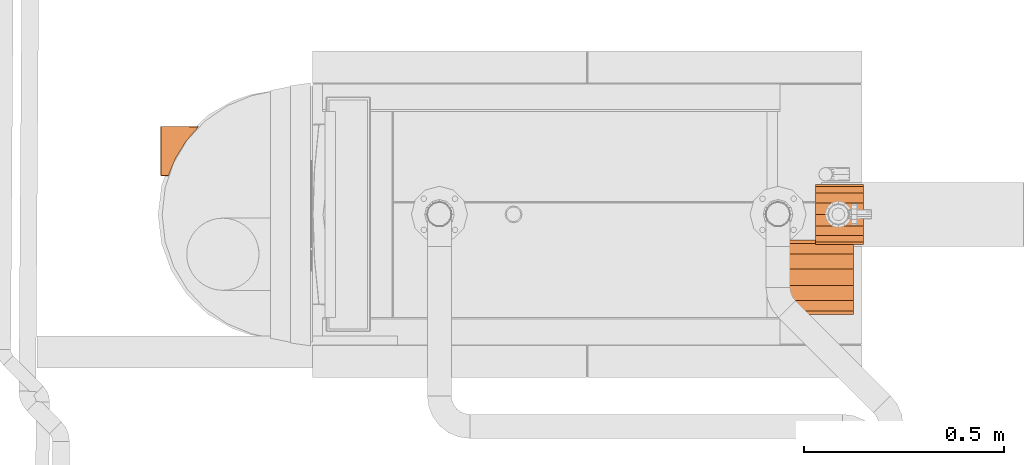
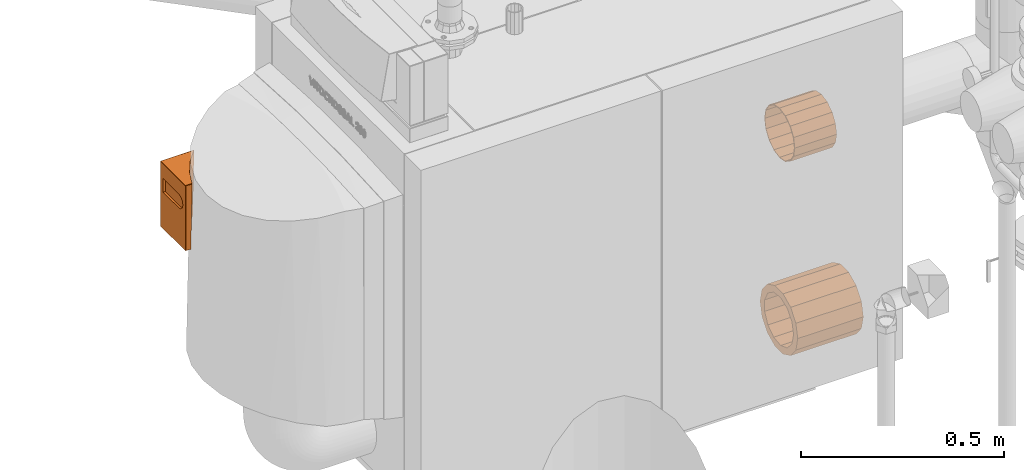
# One storey, part 372 of 374: 3 proxies.
"""IFC2X3 building model written with IfcOpenShell, lengths in metres."""

from ifc_helpers import new_model, si_unit, direction, origin, place, context, subcontext, project, spatial, open_shell, surface_model, source, transform, mapped, element, save


model = new_model("IFC2X3")

# Units and contexts
model_context = context("Model", 3, precision=1e-05, world=origin(), true_north=direction((-0.4480736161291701, 0.8939966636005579)))
body_context = subcontext(model_context, "Body", "Model", "MODEL_VIEW")
ifc_project = project(units=[si_unit("LENGTHUNIT", "METRE"), si_unit("AREAUNIT", "SQUARE_METRE"), si_unit("VOLUMEUNIT", "CUBIC_METRE"), si_unit("PLANEANGLEUNIT", "RADIAN"), si_unit("THERMODYNAMICTEMPERATUREUNIT", "KELVIN"), si_unit("MASSUNIT", "GRAM", prefix="KILO"), si_unit("TIMEUNIT", "SECOND")], contexts=[model_context])

# Site, building, storey
site_placement = place(None, origin())
site = spatial("IfcSite", under=ifc_project, at=site_placement, Name="Site 1", CompositionType="ELEMENT")
building_placement = place(site_placement, origin())
building = spatial("IfcBuilding", under=site, at=building_placement, Name="Undefined", CompositionType="ELEMENT")
storey_placement = place(building_placement, origin())
storey = spatial("IfcBuildingStorey", under=building, at=storey_placement, Name="Rez de chauss\x8ee", CompositionType="ELEMENT", Elevation=0.0)

# Proxies
shared_shape_1 = source(origin(), body_context, "Body", "SurfaceModel", [
    surface_model("IfcFaceBasedSurfaceModel", [(0.0418558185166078, 1.776356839e-15, 0.0), (0.005487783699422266, 0.01968961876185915, 0.0), (0.0, 0.0, 0.0), (-0.03582168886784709, 0.021649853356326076, 0.0), (-0.03467825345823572, 0.0010460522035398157, 0.0), (-0.07389075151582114, 0.005492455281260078, 0.0), (-0.06587044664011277, -0.01414350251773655, 0.0), (-0.10117935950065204, -0.02558240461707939, 0.0), (-0.08643082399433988, -0.04208892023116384, 0.0), (-0.11228266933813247, -0.06541996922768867, 0.0), (-0.09164925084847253, -0.07638824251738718, 0.0), (-0.10500153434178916, -0.10612992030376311, 0.0), (-0.08033024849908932, -0.10918390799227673, 0.0), (-0.08077807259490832, -0.13964915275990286, 0.0), (-0.0550668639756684, -0.13296282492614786, 0.0), (-0.04441003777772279, -0.159338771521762, 0.0), (-0.02164663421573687, -0.14227753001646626, 0.0), (-0.003100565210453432, -0.16129900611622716, 0.0), (0.01227426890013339, -0.1349941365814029, 0.0), (0.03496849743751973, -0.1451416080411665, 0.0), (0.038924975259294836, -0.11278118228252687, 0.0), (0.06225710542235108, -0.11406674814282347, 0.0), (0.05220012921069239, -0.08072738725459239, 0.0), (0.0733604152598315, -0.0742291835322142, 0.0), (0.04905855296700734, -0.04617588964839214, 0.0), (0.06607928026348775, -0.0335192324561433, 0.0), (0.03021994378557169, -0.017042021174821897, 0.0), (0.03021994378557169, -0.017042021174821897, -0.1867972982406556), (0.0, 0.0, -0.1867972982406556), (-0.03467825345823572, 0.0010460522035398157, -0.1867972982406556), (-0.06587044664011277, -0.01414350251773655, -0.1867972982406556), (-0.08643082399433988, -0.04208892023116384, -0.1867972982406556), (-0.09164925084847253, -0.07638824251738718, -0.1867972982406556), (-0.08033024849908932, -0.10918390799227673, -0.1867972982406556), (-0.0550668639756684, -0.13296282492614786, -0.1867972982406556), (-0.02164663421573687, -0.14227753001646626, -0.1867972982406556), (0.01227426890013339, -0.1349941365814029, -0.1867972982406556), (0.038924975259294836, -0.11278118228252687, -0.1867972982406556), (0.05220012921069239, -0.08072738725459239, -0.1867972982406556), (0.04905855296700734, -0.04617588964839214, -0.1867972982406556), (-0.03582168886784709, 0.021649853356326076, -0.1867972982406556), (0.005487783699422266, 0.01968961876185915, -0.1867972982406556), (0.0418558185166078, 1.776356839e-15, -0.1867972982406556), (0.06607928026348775, -0.0335192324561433, -0.1867972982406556), (0.0733604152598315, -0.0742291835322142, -0.1867972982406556), (0.06225710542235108, -0.11406674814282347, -0.1867972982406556), (0.03496849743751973, -0.1451416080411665, -0.1867972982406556), (-0.003100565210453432, -0.16129900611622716, -0.1867972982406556), (-0.04441003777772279, -0.159338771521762, -0.1867972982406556), (-0.08077807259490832, -0.13964915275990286, -0.1867972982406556), (-0.10500153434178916, -0.10612992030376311, -0.1867972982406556), (-0.11228266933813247, -0.06541996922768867, -0.1867972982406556), (-0.10117935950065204, -0.02558240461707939, -0.1867972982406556), (-0.07389075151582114, 0.005492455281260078, -0.1867972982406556)], [open_shell([[[0, 1, 2]], [[2, 1, 3]], [[2, 3, 4]], [[4, 3, 5]], [[4, 5, 6]], [[6, 5, 7]], [[6, 7, 8]], [[8, 7, 9]], [[8, 9, 10]], [[10, 9, 11]], [[10, 11, 12]], [[12, 11, 13]], [[12, 13, 14]], [[14, 13, 15]], [[14, 15, 16]], [[16, 15, 17]], [[16, 17, 18]], [[18, 17, 19]], [[18, 19, 20]], [[20, 19, 21]], [[20, 21, 22]], [[22, 21, 23]], [[22, 23, 24]], [[24, 23, 25]], [[24, 25, 26]], [[26, 25, 0]], [[26, 0, 2]], [[27, 2, 28]], [[28, 2, 4]], [[28, 4, 29]], [[29, 4, 6]], [[29, 6, 30]], [[30, 6, 8]], [[30, 8, 31]], [[31, 8, 10]], [[31, 10, 32]], [[32, 10, 12]], [[32, 12, 33]], [[33, 12, 14]], [[33, 14, 34]], [[34, 14, 16]], [[34, 16, 35]], [[35, 16, 18]], [[35, 18, 36]], [[36, 18, 20]], [[36, 20, 37]], [[37, 20, 22]], [[37, 22, 38]], [[38, 22, 24]], [[38, 24, 39]], [[39, 24, 26]], [[39, 26, 27]], [[27, 26, 2]], [[40, 1, 41]], [[41, 1, 0]], [[41, 0, 42]], [[42, 0, 25]], [[42, 25, 43]], [[43, 25, 23]], [[43, 23, 44]], [[44, 23, 21]], [[44, 21, 45]], [[45, 21, 19]], [[45, 19, 46]], [[46, 19, 17]], [[46, 17, 47]], [[47, 17, 15]], [[47, 15, 48]], [[48, 15, 13]], [[48, 13, 49]], [[49, 13, 11]], [[49, 11, 50]], [[50, 11, 9]], [[50, 9, 51]], [[51, 9, 7]], [[51, 7, 52]], [[52, 7, 5]], [[52, 5, 53]], [[53, 5, 3]], [[53, 3, 40]], [[40, 3, 1]], [[40, 41, 28]], [[28, 41, 42]], [[28, 42, 27]], [[27, 42, 43]], [[27, 43, 39]], [[39, 43, 44]], [[39, 44, 38]], [[38, 44, 45]], [[38, 45, 37]], [[37, 45, 46]], [[37, 46, 36]], [[36, 46, 47]], [[36, 47, 35]], [[35, 47, 48]], [[35, 48, 34]], [[34, 48, 49]], [[34, 49, 33]], [[33, 49, 50]], [[33, 50, 32]], [[32, 50, 51]], [[32, 51, 31]], [[31, 51, 52]], [[31, 52, 30]], [[30, 52, 53]], [[30, 53, 29]], [[29, 53, 40]], [[29, 40, 28]]])]),
])
proxy_1_placement = place(storey_placement, origin())
element("IfcBuildingElementProxy", 1, at=proxy_1_placement, inside=storey, Name="BuildingElementProxy 20", context=body_context, shape_type="MappedRepresentation", body=[
    mapped(shared_shape_1, transform((54.763099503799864, 12.826726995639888, 0.22600000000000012), x_axis=(0.0, -0.2684815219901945, -0.9632848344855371), y_axis=(0.0, -0.9632848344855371, 0.2684815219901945), z_axis=(-1.0, 0.0, 0.0))),
])
shared_shape_2 = source(origin(), body_context, "Body", "SurfaceModel", [
    surface_model("IfcFaceBasedSurfaceModel", [(0.028939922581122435, 0.0, 0.0), (0.0005222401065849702, 0.0019306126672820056, 0.0), (0.0, 0.0, 0.0), (-0.024993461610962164, 0.014589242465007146, 0.0), (-0.026214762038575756, 0.013005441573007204, 0.0), (-0.04372264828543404, 0.03604872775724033, 0.0), (-0.045457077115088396, 0.035052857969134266, 0.0), (-0.0528139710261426, 0.06304205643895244, 0.0), (-0.05479747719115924, 0.06278572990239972, 0.0), (-0.0508833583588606, 0.0914597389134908, 0.0), (-0.05281397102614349, 0.09198197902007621, 0.0), (-0.039808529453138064, 0.11819674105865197, 0.0), (-0.03822472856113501, 0.11697544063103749, 0.0), (-0.017761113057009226, 0.13743905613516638, 0.0), (-0.016765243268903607, 0.13570462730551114, 0.0), (0.009971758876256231, 0.14677945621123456, 0.0), (0.010228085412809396, 0.1447959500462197, 0.0), (0.039168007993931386, 0.14479595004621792, 0.0), (0.03864576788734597, 0.14286533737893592, 0.0), (0.06538277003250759, 0.13179050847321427, 0.0), (0.064161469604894, 0.13020670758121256, 0.0), (0.08289065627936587, 0.10874722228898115, 0.0), (0.08462508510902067, 0.10974309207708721, 0.0), (0.09198197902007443, 0.08175389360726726, 0.0), (0.09396548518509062, 0.08201022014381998, 0.0), (0.09005136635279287, 0.05333621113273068, 0.0), (0.09198197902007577, 0.05281397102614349, 0.0), (0.07897653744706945, 0.026599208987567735, 0.0), (0.07739273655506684, 0.027820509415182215, 0.0), (0.0569291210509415, 0.007356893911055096, 0.0), (0.05593325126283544, 0.00909132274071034, 0.0), (0.029196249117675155, -0.0019835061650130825, 0.0), (0.0005222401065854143, 0.001930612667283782, -0.11936495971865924), (-0.024993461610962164, 0.014589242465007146, -0.11936495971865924), (-0.04372264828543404, 0.03604872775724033, -0.11936495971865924), (-0.0528139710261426, 0.06304205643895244, -0.11936495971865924), (-0.0508833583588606, 0.0914597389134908, -0.11936495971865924), (-0.03822472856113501, 0.11697544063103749, -0.11936495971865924), (-0.016765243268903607, 0.13570462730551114, -0.11936495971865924), (0.010228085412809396, 0.1447959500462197, -0.11936495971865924), (0.038645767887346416, 0.1428653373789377, -0.11936495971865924), (0.064161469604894, 0.13020670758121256, -0.11936495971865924), (0.08289065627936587, 0.10874722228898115, -0.11936495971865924), (0.09198197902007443, 0.08175389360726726, -0.11936495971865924), (0.09005136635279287, 0.05333621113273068, -0.11936495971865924), (0.07739273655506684, 0.027820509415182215, -0.11936495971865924), (0.05593325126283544, 0.00909132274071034, -0.11936495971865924), (0.028939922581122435, 0.0, -0.11936495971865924), (0.0, 1.776356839e-15, -0.11936495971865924), (0.029196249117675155, -0.0019835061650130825, -0.11936495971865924), (0.0569291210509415, 0.007356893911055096, -0.11936495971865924), (0.07897653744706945, 0.026599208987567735, -0.11936495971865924), (0.09198197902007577, 0.05281397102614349, -0.11936495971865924), (0.09396548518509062, 0.08201022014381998, -0.11936495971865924), (0.08462508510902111, 0.10974309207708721, -0.11936495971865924), (0.06538277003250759, 0.13179050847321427, -0.11936495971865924), (0.03916800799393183, 0.1447959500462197, -0.11936495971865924), (0.009971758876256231, 0.14677945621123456, -0.11936495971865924), (-0.017761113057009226, 0.13743905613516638, -0.11936495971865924), (-0.039808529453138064, 0.11819674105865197, -0.11936495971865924), (-0.05281397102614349, 0.09198197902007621, -0.11936495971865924), (-0.05479747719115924, 0.06278572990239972, -0.11936495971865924), (-0.045457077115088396, 0.035052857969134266, -0.11936495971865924), (-0.026214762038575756, 0.013005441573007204, -0.11936495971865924)], [open_shell([[[0, 1, 2]], [[2, 1, 3]], [[2, 3, 4]], [[4, 3, 5]], [[4, 5, 6]], [[6, 5, 7]], [[6, 7, 8]], [[8, 7, 9]], [[8, 9, 10]], [[10, 9, 11]], [[9, 12, 11]], [[11, 12, 13]], [[12, 14, 13]], [[13, 14, 15]], [[14, 16, 15]], [[15, 16, 17]], [[16, 18, 17]], [[17, 18, 19]], [[18, 20, 19]], [[19, 20, 21]], [[19, 21, 22]], [[22, 21, 23]], [[22, 23, 24]], [[24, 23, 25]], [[24, 25, 26]], [[26, 25, 27]], [[25, 28, 27]], [[27, 28, 29]], [[28, 30, 29]], [[29, 30, 31]], [[30, 0, 31]], [[31, 0, 2]], [[0, 32, 1]], [[1, 32, 33]], [[1, 33, 3]], [[3, 33, 34]], [[3, 34, 5]], [[5, 34, 35]], [[5, 35, 7]], [[7, 35, 36]], [[7, 36, 9]], [[9, 36, 37]], [[9, 37, 12]], [[12, 37, 38]], [[12, 38, 14]], [[14, 38, 39]], [[14, 39, 16]], [[16, 39, 40]], [[16, 40, 18]], [[18, 40, 41]], [[18, 41, 20]], [[20, 41, 42]], [[20, 42, 21]], [[21, 42, 43]], [[21, 43, 23]], [[23, 43, 44]], [[23, 44, 25]], [[25, 44, 45]], [[25, 45, 28]], [[28, 45, 46]], [[28, 46, 30]], [[30, 46, 47]], [[30, 47, 0]], [[0, 47, 32]], [[4, 48, 2]], [[2, 48, 49]], [[2, 49, 31]], [[31, 49, 50]], [[31, 50, 29]], [[29, 50, 51]], [[29, 51, 27]], [[27, 51, 52]], [[27, 52, 26]], [[26, 52, 53]], [[26, 53, 24]], [[24, 53, 54]], [[24, 54, 22]], [[22, 54, 55]], [[22, 55, 19]], [[19, 55, 56]], [[19, 56, 17]], [[17, 56, 57]], [[17, 57, 15]], [[15, 57, 58]], [[15, 58, 13]], [[13, 58, 59]], [[13, 59, 11]], [[11, 59, 60]], [[11, 60, 10]], [[10, 60, 61]], [[10, 61, 8]], [[8, 61, 62]], [[8, 62, 6]], [[6, 62, 63]], [[6, 63, 4]], [[4, 63, 48]], [[36, 60, 37]], [[37, 60, 59]], [[37, 59, 38]], [[38, 59, 58]], [[38, 58, 39]], [[39, 58, 57]], [[39, 57, 40]], [[40, 57, 56]], [[40, 56, 55]], [[36, 35, 60]], [[60, 35, 61]], [[35, 34, 61]], [[61, 34, 62]], [[34, 33, 62]], [[62, 33, 63]], [[33, 32, 63]], [[63, 32, 48]], [[48, 32, 49]], [[49, 32, 47]], [[49, 47, 50]], [[50, 47, 46]], [[50, 46, 51]], [[51, 46, 45]], [[51, 45, 52]], [[52, 45, 44]], [[52, 44, 53]], [[53, 44, 43]], [[53, 43, 42]], [[53, 42, 54]], [[54, 42, 41]], [[54, 41, 55]], [[55, 41, 40]]])]),
])
proxy_2_placement = place(storey_placement, origin())
element("IfcBuildingElementProxy", 2, at=proxy_2_placement, inside=storey, Name="BuildingElementProxy 29", context=body_context, shape_type="MappedRepresentation", body=[
    mapped(shared_shape_2, transform((54.97509950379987, 12.981212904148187, 0.66), x_axis=(0.0, 0.26112005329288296, -0.9653063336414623), y_axis=(0.0, 0.9653063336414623, 0.26112005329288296), z_axis=(1.0, 0.0, 0.0))),
])
shared_shape_3 = source(origin(), body_context, "Body", "SurfaceModel", [
    surface_model("IfcFaceBasedSurfaceModel", [(0.0, 0.0, 0.0), (0.0010352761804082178, 0.0, 0.0), (0.00036278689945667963, 0.0005391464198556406, 0.0), (0.0010523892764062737, 0.0004753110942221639, -5.322261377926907e-05), (0.000446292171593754, 0.0011939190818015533, -0.00029703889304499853), (0.0011258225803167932, 0.0010511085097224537, -0.0003144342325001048), (0.0005847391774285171, 0.0016930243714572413, -0.0008026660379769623), (0.001247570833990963, 0.0014900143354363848, -0.000759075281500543), (0.0007594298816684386, 0.0019690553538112, -0.0014485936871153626), (0.001401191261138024, 0.001732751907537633, -0.0013270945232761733), (0.0014835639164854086, 0.0017691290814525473, -0.0016337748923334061), (0.0019363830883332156, 0.0012926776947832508, -0.001278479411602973), (0.0021906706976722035, 0.0010330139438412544, -0.0014607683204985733), (0.002300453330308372, 0.0007019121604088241, -0.0013086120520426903), (0.002449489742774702, 3.1710346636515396e-05, -0.0014138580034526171), (0.0005176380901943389, 0.002042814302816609, -0.0018865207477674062), (0.0002588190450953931, 0.0017532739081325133, -0.0009268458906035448), (6.935035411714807e-05, 0.001005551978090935, -0.00023633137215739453), (0.001677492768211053, 0.0003593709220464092, -0.000332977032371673), (0.0019318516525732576, 1.1606792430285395e-05, -0.0005175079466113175), (0.0021627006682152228, 0.00020530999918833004, -0.0008055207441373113), (0.002191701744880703, 0.00043271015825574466, -0.0009086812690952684), (0.002239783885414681, 0.0006060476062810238, -0.0010842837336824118), (0.001822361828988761, 0.0011125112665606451, -0.0008568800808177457), (0.0017319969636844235, 0.0007867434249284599, -0.0005268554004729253), (0.0005176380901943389, -0.12209881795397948, -0.004670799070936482), (0.0014835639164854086, -0.12183673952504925, -0.004406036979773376), (0.0006689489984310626, -0.12195289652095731, -0.003890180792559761), (0.0013216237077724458, -0.1217333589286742, -0.0037991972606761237), (0.0005096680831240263, -0.1215852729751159, -0.0032873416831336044), (0.0011815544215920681, -0.12141007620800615, -0.0032690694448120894), (0.00039676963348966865, -0.12101723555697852, -0.0028531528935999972), (0.0010822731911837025, -0.12091055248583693, -0.002887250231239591), (0.00034550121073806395, -0.12032550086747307, -0.002646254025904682), (0.0010371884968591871, -0.12030225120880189, -0.0027053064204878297), (0.0010352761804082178, -0.1201426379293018, -0.002694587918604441), (0.001666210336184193, -0.1202545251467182, -0.0029960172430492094), (0.0019318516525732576, -0.12013103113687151, -0.0032120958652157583), (0.0021566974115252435, -0.12018807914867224, -0.003483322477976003), (0.002449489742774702, -0.12011092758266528, -0.004108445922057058), (-1.776356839e-15, -0.1201426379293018, -0.0026945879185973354), (6.935035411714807e-05, -0.1211365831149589, -0.002975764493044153), (0.0002588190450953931, -0.12185259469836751, -0.0036991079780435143), (0.00187732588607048, -0.12131673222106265, -0.0038079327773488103), (0.0021906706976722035, -0.12110912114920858, -0.004200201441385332), (0.002269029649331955, -0.1207532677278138, -0.003915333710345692), (0.002213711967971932, -0.12062559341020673, -0.0037059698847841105), (0.002174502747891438, -0.12042831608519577, -0.0035551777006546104), (0.0016996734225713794, -0.12070602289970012, -0.0031310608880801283), (0.0017733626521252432, -0.12107678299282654, -0.0034144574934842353), (-0.18608279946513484, 0.0028728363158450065, -0.05084437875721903), (-0.1858239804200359, 0.0031623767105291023, -0.051804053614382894), (-0.18625311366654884, 0.0030926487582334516, -0.05154585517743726), (-0.1867899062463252, 0.0029002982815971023, -0.052068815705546), (-0.18687227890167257, 0.002863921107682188, -0.05176213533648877), (-0.18736500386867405, 0.0024300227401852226, -0.051988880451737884), (-0.18702589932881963, 0.00262118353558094, -0.05119411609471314), (-0.18747902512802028, 0.002249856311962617, -0.05156728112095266), (-0.1871476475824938, 0.0021822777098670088, -0.0507494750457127), (-0.18756938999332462, 0.0019240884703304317, -0.05123725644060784), (-0.18722108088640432, 0.001606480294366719, -0.050488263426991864), (-0.18762389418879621, 0.001496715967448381, -0.051043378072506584), (-0.18723819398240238, 0.001131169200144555, -0.050435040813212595), (-0.18775583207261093, 0.0011512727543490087, -0.05133139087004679), (-0.18749701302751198, 0.0021726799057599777, -0.052274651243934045), (-0.18767185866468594, 0.0018432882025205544, -0.05219874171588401), (-0.18773252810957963, 0.001747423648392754, -0.05197441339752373), (-0.1877806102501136, 0.001574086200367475, -0.05179881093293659), (-0.1878096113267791, 0.0013466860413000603, -0.05169565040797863), (-0.18775583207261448, 0.0011744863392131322, -0.05236640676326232), (-0.18664975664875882, 0.0016627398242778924, -0.0500972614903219), (-0.186341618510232, 0.0011195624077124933, -0.04991753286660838), (-0.18627226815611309, 0.0021251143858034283, -0.05015386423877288), (-0.18656625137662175, 0.002317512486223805, -0.0503943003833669), (-0.186427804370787, 0.002816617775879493, -0.05089992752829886), (-0.18627226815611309, -0.1200170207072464, -0.05289329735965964), (-0.186341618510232, -0.1190230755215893, -0.052612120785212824), (-0.18666704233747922, -0.11920190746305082, -0.05274351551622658), (-0.18723819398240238, -0.11901146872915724, -0.053129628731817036), (-0.1872362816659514, -0.11917108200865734, -0.053140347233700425), (-0.18763517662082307, -0.11911718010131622, -0.05370641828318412), (-0.1871911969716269, -0.11977938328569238, -0.053322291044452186), (-0.18760171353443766, -0.11956867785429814, -0.05384146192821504), (-0.18709191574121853, -0.12027890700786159, -0.053704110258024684), (-0.18752802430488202, -0.11993943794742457, -0.05412485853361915), (-0.18695184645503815, -0.12060218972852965, -0.05423423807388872), (-0.18742406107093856, -0.12017938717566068, -0.05451833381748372), (-0.1867899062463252, -0.1207055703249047, -0.05484107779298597), (-0.18749701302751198, -0.11996945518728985, -0.0550140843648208), (-0.18775583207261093, -0.11899136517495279, -0.05402597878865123), (-0.18781561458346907, -0.11904670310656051, -0.054373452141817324), (-0.18779780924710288, -0.11928694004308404, -0.05444530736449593), (-0.18775860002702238, -0.119484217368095, -0.05459609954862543), (-0.18770328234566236, -0.11961189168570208, -0.05480546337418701), (-0.18775583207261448, -0.11896815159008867, -0.05506099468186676), (-0.18634359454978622, -0.12082930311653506, -0.05398744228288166), (-0.1858239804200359, -0.12097925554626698, -0.05458833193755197), (-0.18608279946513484, -0.12073303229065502, -0.053616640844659), (-0.18650287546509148, -0.12046167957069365, -0.0533846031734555), (-0.1866157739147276, -0.11989364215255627, -0.052950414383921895), (-0.16392921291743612, -0.11697428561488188, -0.14396079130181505), (-0.16364364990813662, -0.11763137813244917, -0.14459294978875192), (-0.1631260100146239, -0.11825177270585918, -0.14512074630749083), (-0.16239033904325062, -0.1187350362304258, -0.14543660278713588), (-0.1619399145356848, -0.11888757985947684, -0.14547247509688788), (-0.16148515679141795, -0.11894252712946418, -0.14539922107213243), (-0.18144037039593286, 0.003529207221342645, -0.06815979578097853), (-0.18217900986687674, 0.0033757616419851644, -0.06843038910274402), (-0.18276405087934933, 0.0029401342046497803, -0.06876061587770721), (-0.18311555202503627, 0.0022994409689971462, -0.06910008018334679), (-0.18319071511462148, 0.001556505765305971, -0.06939937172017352), (0.023939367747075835, -0.12013883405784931, -0.09205990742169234), (0.024367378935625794, -0.12008924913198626, -0.0918788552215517), (0.024736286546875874, -0.11994208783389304, -0.09160740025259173), (0.02521324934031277, -0.1194690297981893, -0.09094533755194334), (0.02540228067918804, -0.11885391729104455, -0.09021503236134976), (0.025339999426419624, -0.11819539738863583, -0.08951551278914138), (0.006078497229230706, 0.00033539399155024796, -0.014954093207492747), (0.005874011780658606, 0.0010790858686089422, -0.014735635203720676), (0.0054107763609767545, 0.0017259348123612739, -0.014630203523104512), (0.0047490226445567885, 0.002170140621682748, -0.014658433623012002), (0.003984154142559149, 0.0023329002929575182, -0.014820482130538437), (-0.17192233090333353, -0.08157508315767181, -0.11332862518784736), (-0.17839355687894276, -0.04175266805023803, -0.08827846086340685), (-0.14532656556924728, -0.1073281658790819, -0.0413571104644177), (-0.10537746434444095, -0.10756818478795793, -0.030655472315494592), (-0.10537746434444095, -0.030703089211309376, -0.02893152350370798), (-0.10805354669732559, -0.020350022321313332, -0.029416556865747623), (-0.11536473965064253, -0.012738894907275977, -0.031205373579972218), (-0.14532656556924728, -0.030463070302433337, -0.03963316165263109), (-0.14265048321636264, -0.020142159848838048, -0.03868444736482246), (-0.1353392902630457, -0.012618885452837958, -0.03655619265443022), (-0.12535201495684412, -0.009909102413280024, -0.0338186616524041), (0.01734688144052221, -0.08279619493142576, -0.0588833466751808), (0.010875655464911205, -0.042973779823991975, -0.03383318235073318), (-0.14370488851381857, -0.10719246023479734, -0.047407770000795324), (-0.14370488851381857, -0.03032736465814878, -0.04568382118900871), (-0.10375578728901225, -0.03056738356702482, -0.0349821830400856), (-0.10643186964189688, -0.020214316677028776, -0.035467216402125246), (-0.11374306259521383, -0.012603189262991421, -0.03725603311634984), (-0.12373033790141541, -0.009773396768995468, -0.039869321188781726), (-0.133717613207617, -0.012483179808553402, -0.04260685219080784), (-0.14102880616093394, -0.020006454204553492, -0.044735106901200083), (-0.10375578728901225, -0.10743247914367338, -0.036706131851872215)], [open_shell([[[0, 1, 2]], [[2, 1, 3]], [[2, 3, 4]], [[4, 3, 5]], [[4, 5, 6]], [[6, 5, 7]], [[6, 7, 8]], [[8, 7, 9]], [[8, 9, 10]], [[10, 9, 11]], [[10, 11, 12]], [[12, 11, 13]], [[12, 13, 14]], [[10, 15, 8]], [[8, 15, 16]], [[8, 16, 6]], [[6, 16, 4]], [[16, 17, 4]], [[4, 17, 2]], [[17, 0, 2]], [[3, 1, 18]], [[18, 1, 19]], [[18, 19, 20]], [[20, 19, 14]], [[20, 14, 21]], [[21, 14, 22]], [[11, 9, 23]], [[23, 9, 7]], [[23, 7, 24]], [[24, 7, 5]], [[24, 5, 18]], [[18, 5, 3]], [[13, 11, 22]], [[22, 11, 23]], [[22, 23, 21]], [[21, 23, 24]], [[21, 24, 20]], [[20, 24, 18]], [[22, 14, 13]], [[25, 26, 27]], [[27, 26, 28]], [[27, 28, 29]], [[29, 28, 30]], [[29, 30, 31]], [[31, 30, 32]], [[31, 32, 33]], [[33, 32, 34]], [[33, 34, 35]], [[35, 34, 36]], [[35, 36, 37]], [[37, 36, 38]], [[37, 38, 39]], [[35, 40, 33]], [[33, 40, 41]], [[33, 41, 31]], [[31, 41, 29]], [[41, 42, 29]], [[29, 42, 27]], [[42, 25, 27]], [[28, 26, 43]], [[43, 26, 44]], [[43, 44, 45]], [[45, 44, 39]], [[45, 39, 46]], [[46, 39, 47]], [[36, 34, 48]], [[48, 34, 32]], [[48, 32, 49]], [[49, 32, 30]], [[49, 30, 43]], [[43, 30, 28]], [[38, 36, 47]], [[47, 36, 48]], [[47, 48, 46]], [[46, 48, 49]], [[46, 49, 45]], [[45, 49, 43]], [[47, 39, 38]], [[50, 51, 52]], [[52, 51, 53]], [[52, 53, 54]], [[54, 53, 55]], [[54, 55, 56]], [[56, 55, 57]], [[56, 57, 58]], [[58, 57, 59]], [[58, 59, 60]], [[60, 59, 61]], [[60, 61, 62]], [[62, 61, 63]], [[53, 64, 55]], [[55, 64, 65]], [[55, 65, 57]], [[57, 65, 66]], [[57, 66, 59]], [[59, 66, 67]], [[59, 67, 61]], [[61, 67, 68]], [[61, 68, 63]], [[63, 68, 69]], [[60, 62, 70]], [[70, 62, 71]], [[70, 71, 72]], [[70, 72, 73]], [[73, 72, 50]], [[73, 50, 74]], [[74, 50, 52]], [[74, 52, 54]], [[66, 65, 69]], [[69, 65, 64]], [[60, 70, 58]], [[58, 70, 73]], [[58, 73, 56]], [[56, 73, 74]], [[56, 74, 54]], [[67, 69, 68]], [[66, 69, 67]], [[75, 76, 77]], [[77, 76, 78]], [[77, 78, 79]], [[79, 78, 80]], [[79, 80, 81]], [[81, 80, 82]], [[81, 82, 83]], [[83, 82, 84]], [[83, 84, 85]], [[85, 84, 86]], [[85, 86, 87]], [[87, 86, 88]], [[78, 89, 80]], [[80, 89, 90]], [[80, 90, 82]], [[82, 90, 91]], [[82, 91, 84]], [[84, 91, 92]], [[84, 92, 86]], [[86, 92, 93]], [[86, 93, 88]], [[88, 93, 94]], [[85, 87, 95]], [[95, 87, 96]], [[95, 96, 97]], [[95, 97, 98]], [[98, 97, 75]], [[98, 75, 99]], [[99, 75, 77]], [[99, 77, 79]], [[91, 90, 94]], [[94, 90, 89]], [[85, 95, 83]], [[83, 95, 98]], [[83, 98, 81]], [[81, 98, 99]], [[81, 99, 79]], [[92, 94, 93]], [[91, 94, 92]], [[100, 101, 94]], [[94, 101, 88]], [[101, 102, 88]], [[88, 102, 87]], [[102, 103, 87]], [[87, 103, 104]], [[87, 104, 96]], [[96, 104, 105]], [[94, 89, 69]], [[69, 89, 63]], [[89, 78, 63]], [[63, 78, 62]], [[78, 76, 62]], [[62, 76, 71]], [[25, 42, 96]], [[96, 42, 97]], [[42, 41, 97]], [[97, 41, 75]], [[41, 40, 75]], [[75, 40, 76]], [[51, 50, 15]], [[15, 50, 16]], [[50, 72, 16]], [[16, 72, 17]], [[72, 71, 17]], [[17, 71, 0]], [[106, 107, 51]], [[51, 107, 53]], [[107, 108, 53]], [[53, 108, 64]], [[108, 109, 64]], [[64, 109, 69]], [[109, 110, 69]], [[14, 19, 39]], [[39, 19, 37]], [[19, 1, 37]], [[37, 1, 35]], [[1, 0, 35]], [[35, 0, 40]], [[111, 112, 25]], [[25, 112, 26]], [[112, 113, 26]], [[26, 113, 114]], [[26, 114, 44]], [[44, 114, 115]], [[44, 115, 39]], [[39, 115, 116]], [[117, 118, 14]], [[14, 118, 12]], [[118, 119, 12]], [[12, 119, 10]], [[119, 120, 10]], [[10, 120, 15]], [[120, 121, 15]], [[100, 94, 122]], [[122, 94, 123]], [[94, 69, 123]], [[123, 69, 110]], [[106, 51, 121]], [[121, 51, 15]], [[124, 76, 125]], [[125, 76, 40]], [[125, 40, 126]], [[126, 40, 0]], [[126, 0, 127]], [[127, 0, 128]], [[124, 129, 76]], [[76, 129, 71]], [[129, 130, 71]], [[71, 130, 131]], [[71, 131, 132]], [[71, 132, 0]], [[0, 132, 128]], [[105, 104, 111]], [[111, 104, 112]], [[104, 103, 112]], [[112, 103, 114]], [[112, 114, 113]], [[103, 102, 114]], [[114, 102, 115]], [[102, 101, 115]], [[115, 101, 116]], [[101, 100, 116]], [[116, 100, 122]], [[116, 122, 133]], [[133, 122, 134]], [[122, 123, 134]], [[134, 123, 110]], [[134, 110, 117]], [[117, 110, 118]], [[110, 109, 118]], [[118, 109, 119]], [[108, 107, 109]], [[109, 107, 119]], [[106, 121, 107]], [[107, 121, 119]], [[121, 120, 119]], [[105, 111, 96]], [[96, 111, 25]], [[124, 135, 129]], [[129, 135, 136]], [[126, 127, 137]], [[137, 127, 138]], [[127, 128, 138]], [[138, 128, 139]], [[128, 132, 139]], [[139, 132, 140]], [[132, 131, 140]], [[140, 131, 141]], [[131, 130, 141]], [[141, 130, 142]], [[130, 129, 142]], [[142, 129, 136]], [[138, 139, 137]], [[137, 139, 140]], [[137, 140, 141]], [[141, 142, 137]], [[137, 142, 136]], [[137, 136, 135]], [[135, 143, 137]], [[126, 137, 125]], [[125, 137, 143]], [[125, 143, 124]], [[124, 143, 135]], [[116, 133, 39]], [[39, 133, 134]], [[39, 134, 14]], [[14, 134, 117]]])]),
])
proxy_3_placement = place(storey_placement, origin())
element("IfcBuildingElementProxy", 3, at=proxy_3_placement, inside=storey, Name="BuildingElementProxy 33", context=body_context, shape_type="MappedRepresentation", body=[
    mapped(shared_shape_3, transform((53.221218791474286, 13.15384323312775, 0.8205354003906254), x_axis=(0.25881904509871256, 0.0, -0.9659258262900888), y_axis=(0.02165856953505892, -0.9997485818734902, 0.005803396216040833), z_axis=(-0.9656829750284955, -0.022422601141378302, -0.2587539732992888))),
])

save(model, "model.ifc")
